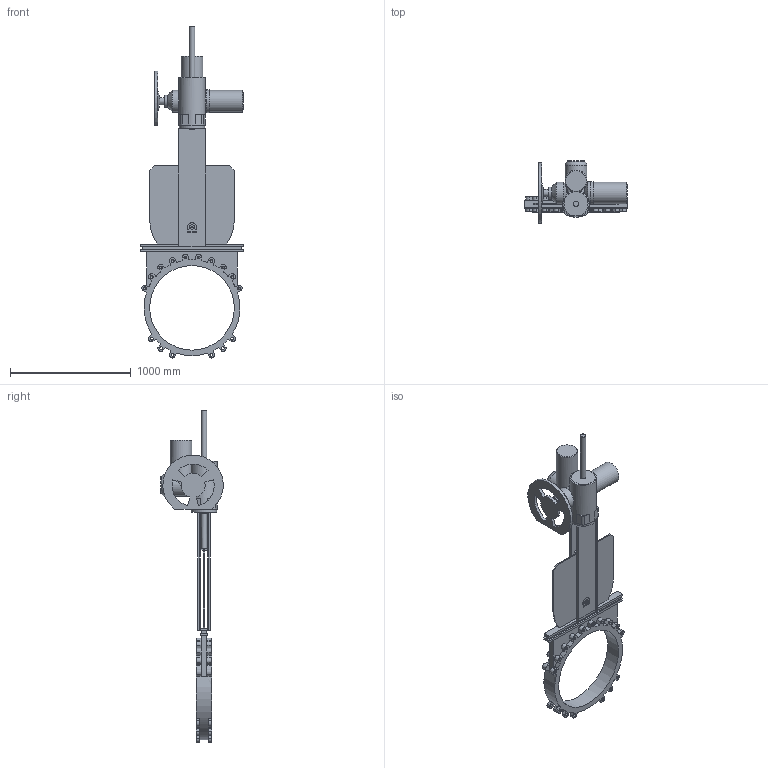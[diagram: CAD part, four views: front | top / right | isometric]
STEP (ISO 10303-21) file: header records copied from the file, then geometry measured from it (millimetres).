
FILE_DESCRIPTION(('STEP AP203'), '1');
FILE_NAME('K51GVA_DN700+MT903.A 60', '', ('UNSPECIFIED'), ('UNSPECIFIED'), 'ASCON STEP Converter 1.6', 'ASCON Math Kernel', '');
FILE_SCHEMA(('CONFIG_CONTROL_DESIGN'));
Length unit declared in the file: millimetre
Bounding box: 855 x 516.46 x 2748.4 mm (x, y, z)
Volume: 75456143.2 mm3; surface area: 4903799 mm2
Topology: 1 solids, 2 shells, 418 faces, 1147 edges, 755 vertices
Faces by surface type: plane 211, cylinder 176, cone 30, torus 1
Full cylindrical faces by diameter (mm): 17.5 x4, 22 x4, 23.752 x32, 46 x2, 60 x1, 80 x1, 100 x1, 130 x1, 140 x1, 180 x4, 187 x1, 191 x1, 210 x1, 220 x1, 700 x1, 794 x1
Entity records: 17210 total; most frequent: CARTESIAN_POINT 3259, DIRECTION 2292, ORIENTED_EDGE 2078, EDGE_CURVE 1039, AXIS2_PLACEMENT_3D 857, VERTEX_POINT 734, LINE 578, VECTOR 578
